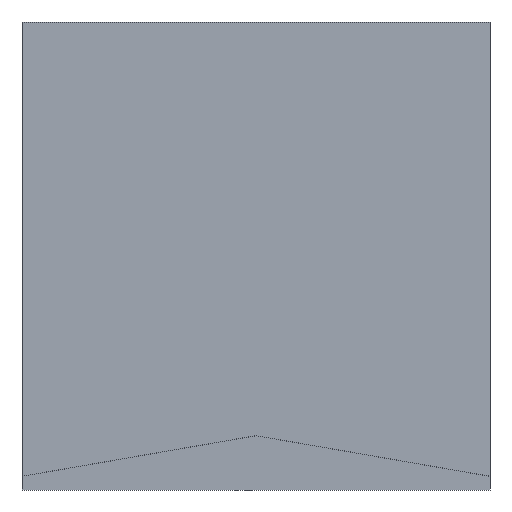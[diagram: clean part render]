
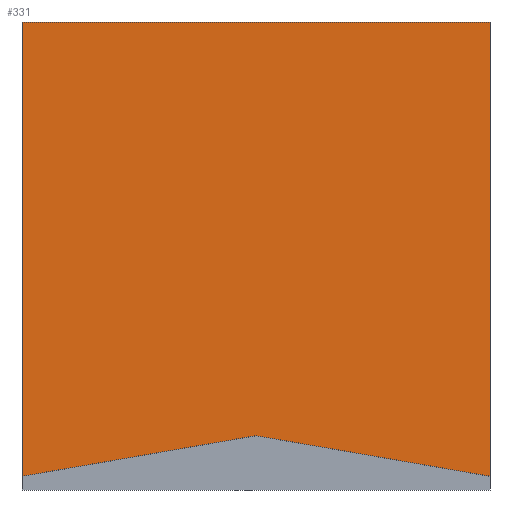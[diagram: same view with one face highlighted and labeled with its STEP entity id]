
A CAD part, front view. The second image highlights one B-rep face of the part: STEP entity #331.
In plain terms, the highlighted planar face has unit normal (0, -1, 0).
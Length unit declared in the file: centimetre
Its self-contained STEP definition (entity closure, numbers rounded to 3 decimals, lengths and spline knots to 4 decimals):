
#6 = DIRECTION ( 'NONE',  ( 0.985, 0., 0.171 ) ) ;
#8 = DIRECTION ( 'NONE',  ( 0., 0., 1. ) ) ;
#13 = DIRECTION ( 'NONE',  ( -1., 0., 0. ) ) ;
#16 = EDGE_CURVE ( 'NONE', #227, #40, #41, .T. ) ;
#20 = VECTOR ( 'NONE', #411, 100. ) ;
#31 = VECTOR ( 'NONE', #69, 100. ) ;
#36 = ORIENTED_EDGE ( 'NONE', *, *, #16, .T. ) ;
#38 = EDGE_CURVE ( 'NONE', #95, #374, #343, .T. ) ;
#40 = VERTEX_POINT ( 'NONE', #203 ) ;
#41 = LINE ( 'NONE', #238, #20 ) ;
#48 = DIRECTION ( 'NONE',  ( 0., 1., 0. ) ) ;
#54 = CARTESIAN_POINT ( 'NONE',  ( 1000., 508.7539, 1000. ) ) ;
#59 = ORIENTED_EDGE ( 'NONE', *, *, #154, .T. ) ;
#69 = DIRECTION ( 'NONE',  ( 0., 0., 1. ) ) ;
#81 = CARTESIAN_POINT ( 'NONE',  ( 0., 508.7539, 1000. ) ) ;
#82 = CARTESIAN_POINT ( 'NONE',  ( 500., 508.7539, 116.0933 ) ) ;
#92 = EDGE_CURVE ( 'NONE', #277, #95, #345, .T. ) ;
#95 = VERTEX_POINT ( 'NONE', #213 ) ;
#122 = ORIENTED_EDGE ( 'NONE', *, *, #228, .T. ) ;
#154 = EDGE_CURVE ( 'NONE', #40, #277, #175, .T. ) ;
#175 = LINE ( 'NONE', #317, #269 ) ;
#200 = ORIENTED_EDGE ( 'NONE', *, *, #38, .T. ) ;
#203 = CARTESIAN_POINT ( 'NONE',  ( 0., 508.7539, 29.2576 ) ) ;
#206 = CARTESIAN_POINT ( 'NONE',  ( 1000., 508.7539, 1000. ) ) ;
#213 = CARTESIAN_POINT ( 'NONE',  ( 1000., 508.7539, 29.2576 ) ) ;
#227 = VERTEX_POINT ( 'NONE', #288 ) ;
#228 = EDGE_CURVE ( 'NONE', #374, #227, #394, .T. ) ;
#238 = CARTESIAN_POINT ( 'NONE',  ( 0., 508.7539, 29.2576 ) ) ;
#249 = FACE_OUTER_BOUND ( 'NONE', #304, .T. ) ;
#253 = PLANE ( 'NONE',  #297 ) ;
#269 = VECTOR ( 'NONE', #6, 100. ) ;
#277 = VERTEX_POINT ( 'NONE', #82 ) ;
#278 = DIRECTION ( 'NONE',  ( 0.985, 0., -0.171 ) ) ;
#288 = CARTESIAN_POINT ( 'NONE',  ( 0., 508.7539, 1000. ) ) ;
#297 = AXIS2_PLACEMENT_3D ( 'NONE', #390, #48, #8 ) ;
#304 = EDGE_LOOP ( 'NONE', ( #36, #59, #341, #200, #122 ) ) ;
#317 = CARTESIAN_POINT ( 'NONE',  ( 500., 508.7539, 116.0933 ) ) ;
#331 = ADVANCED_FACE ( 'NONE', ( #249 ), #253, .F. ) ;
#341 = ORIENTED_EDGE ( 'NONE', *, *, #92, .T. ) ;
#343 = LINE ( 'NONE', #206, #31 ) ;
#345 = LINE ( 'NONE', #442, #369 ) ;
#369 = VECTOR ( 'NONE', #278, 100. ) ;
#374 = VERTEX_POINT ( 'NONE', #54 ) ;
#390 = CARTESIAN_POINT ( 'NONE',  ( 0., 508.7539, 0. ) ) ;
#394 = LINE ( 'NONE', #81, #422 ) ;
#411 = DIRECTION ( 'NONE',  ( 0., 0., -1. ) ) ;
#422 = VECTOR ( 'NONE', #13, 100. ) ;
#442 = CARTESIAN_POINT ( 'NONE',  ( 1000., 508.7539, 29.2576 ) ) ;
